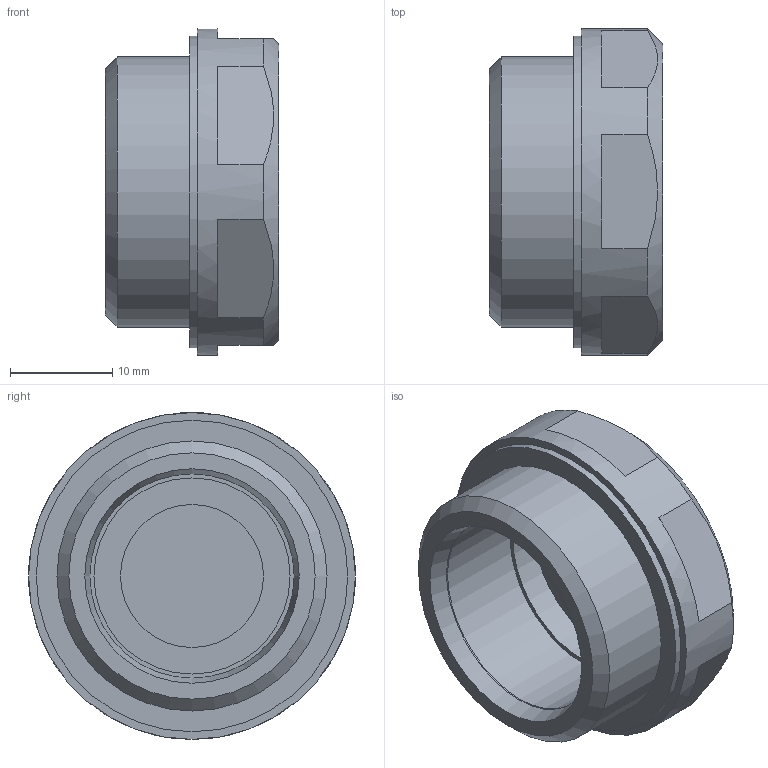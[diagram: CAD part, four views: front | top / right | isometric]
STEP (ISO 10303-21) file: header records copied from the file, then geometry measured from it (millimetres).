
FILE_DESCRIPTION( ( 'STEP AP203' ), '1' );
FILE_NAME( 'C:/Temp/Ganter_Step_05_03_2020/data/3_5/gn_7403/gn_7403_al/Breather strainer GN 7403-AL-G3_4-500.stp', '2020-03-12T13:43:00', ( 'License CC BY-ND 4.0' ), ( 'CADENAS' ), ' ', 'PARTsolutions', ' ' );
FILE_SCHEMA( ( 'CONFIG_CONTROL_DESIGN' ) );
Length unit declared in the file: millimetre
Products named in the file (1): _Breather strainer GN 7403-AL-G3/4-500
Bounding box: 17 x 32 x 32 mm (x, y, z)
Volume: 6148.8 mm3; surface area: 3986.5 mm2
Topology: 1 solids, 1 shells, 32 faces, 69 edges, 45 vertices
Faces by surface type: plane 20, cylinder 7, cone 4, torus 1
Full cylindrical faces by diameter (mm): 14 x1, 18 x1, 19.2 x1, 20 x1, 26.441 x1, 30.5 x1, 32 x1
Entity records: 878 total; most frequent: CARTESIAN_POINT 183, DIRECTION 144, ORIENTED_EDGE 108, AXIS2_PLACEMENT_3D 63, EDGE_CURVE 54, EDGE_LOOP 50, VERTEX_POINT 42, FACE_OUTER_BOUND 40
